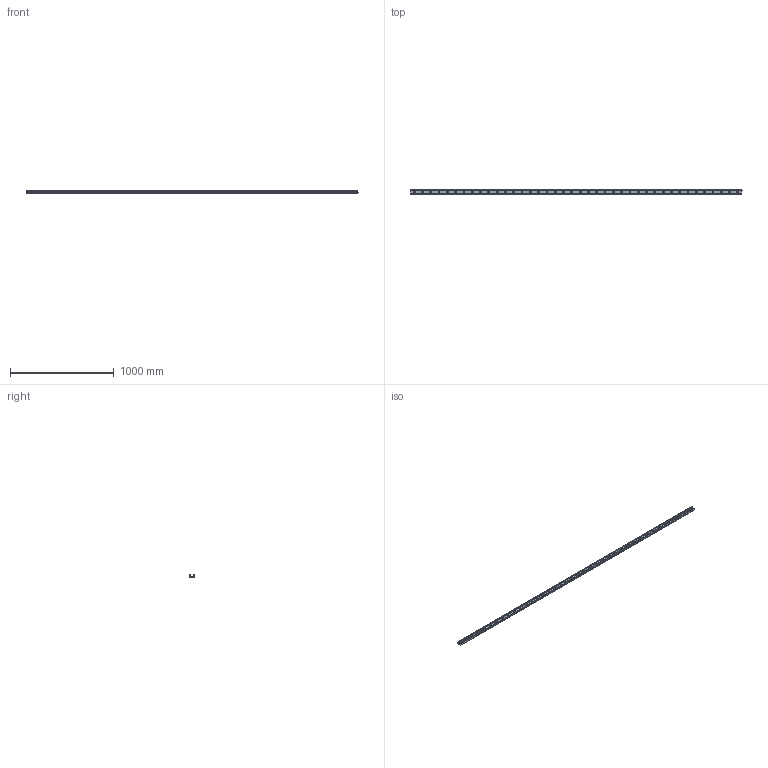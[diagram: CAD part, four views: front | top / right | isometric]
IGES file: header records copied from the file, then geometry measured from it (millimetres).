
Start section: SolidWorks IGES file using analytic representation for surfaces
Global section: file name: C:\Users\IanO\Desktop\43\L1943.ULC43_v2_20180121_IGES\L1943.ULC43-3200.igs; native system: SolidWorks 2017; preprocessor: SolidWorks 2017; author: IanO; date: 190121.085225; units: millimetre
Bounding box: 3200 x 43 x 21 mm (x, y, z)
Surface area: 501778.6 mm2 (no closed solid volume)
Topology: 0 solids, 0 shells, 226 faces, 6054 edges, 6054 vertices
Faces by surface type: revolution 173, bspline 53
